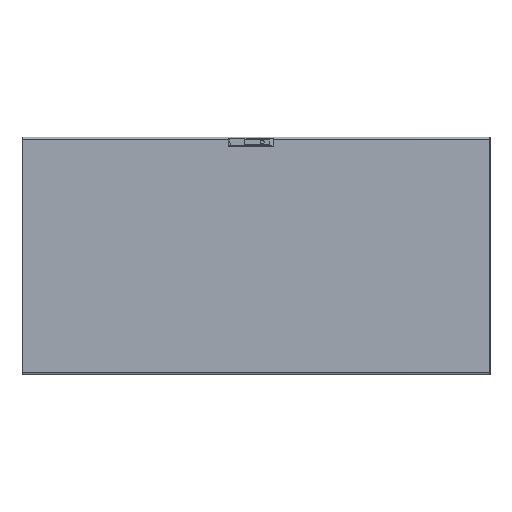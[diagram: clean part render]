
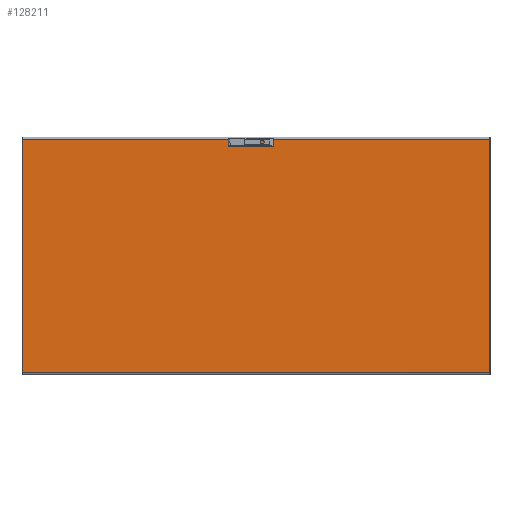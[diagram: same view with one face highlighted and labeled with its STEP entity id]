
A CAD part, top view. The second image highlights one B-rep face of the part: STEP entity #128211.
In plain terms, the highlighted planar face has unit normal (0, 0, 1).
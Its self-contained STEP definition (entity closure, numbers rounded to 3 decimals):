
#123416=CARTESIAN_POINT(' ',(975.49,-487.5,2.));
#123417=VERTEX_POINT(' ',#123416);
#123936=CARTESIAN_POINT(' ',(-975.49,-487.5,2.));
#123937=VERTEX_POINT(' ',#123936);
#124931=CARTESIAN_POINT(' ',(-975.49,-487.5,2.));
#124936=DIRECTION(' ',(1.,0.,0.));
#124941=VECTOR(' ',#124936,1.);
#124946=LINE('',#124931,#124941);
#124951=EDGE_CURVE(' ',#123937,#123417,#124946,.T.);
#125781=CARTESIAN_POINT(' ',(-975.49,487.5,2.));
#125782=VERTEX_POINT(' ',#125781);
#126301=CARTESIAN_POINT(' ',(975.49,487.5,2.));
#126302=VERTEX_POINT(' ',#126301);
#127956=CARTESIAN_POINT(' ',(975.49,-487.5,2.));
#127961=DIRECTION(' ',(0.,1.,0.));
#127966=VECTOR(' ',#127961,1.);
#127971=LINE('',#127956,#127966);
#127976=EDGE_CURVE(' ',#123417,#126302,#127971,.T.);
#128036=DIRECTION(' ',(0.,0.,1.));
#128041=CARTESIAN_POINT(' ',(-975.49,-487.5,2.));
#128046=DIRECTION(' ',(1.,0.,0.));
#128051=AXIS2_PLACEMENT_3D(' ',#128041,#128036,#128046);
#128056=PLANE('NONE',#128051);
#128061=CARTESIAN_POINT(' ',(-29.5,487.5,2.));
#128066=DIRECTION(' ',(-1.,0.,0.));
#128071=VECTOR(' ',#128066,1.);
#128076=LINE('',#128061,#128071);
#128081=CARTESIAN_POINT(' ',(-29.5,487.5,2.));
#128082=VERTEX_POINT(' ',#128081);
#128086=EDGE_CURVE(' ',#128082,#125782,#128076,.T.);
#128091=ORIENTED_EDGE(' ',*,*,#128086,.T.);
#128096=CARTESIAN_POINT(' ',(-975.49,487.5,2.));
#128101=DIRECTION(' ',(0.,-1.,0.));
#128106=VECTOR(' ',#128101,1.);
#128111=LINE('',#128096,#128106);
#128116=EDGE_CURVE(' ',#125782,#123937,#128111,.T.);
#128121=ORIENTED_EDGE(' ',*,*,#128116,.T.);
#128126=ORIENTED_EDGE(' ',*,*,#124951,.T.);
#128131=ORIENTED_EDGE(' ',*,*,#127976,.T.);
#128136=CARTESIAN_POINT(' ',(975.49,487.5,2.));
#128141=DIRECTION(' ',(-1.,0.,0.));
#128146=VECTOR(' ',#128141,1.);
#128151=LINE('',#128136,#128146);
#128156=CARTESIAN_POINT(' ',(29.5,487.5,2.));
#128157=VERTEX_POINT(' ',#128156);
#128161=EDGE_CURVE(' ',#126302,#128157,#128151,.T.);
#128166=ORIENTED_EDGE(' ',*,*,#128161,.T.);
#128171=CARTESIAN_POINT(' ',(29.5,487.5,2.));
#128176=DIRECTION(' ',(-1.,0.,0.));
#128181=VECTOR(' ',#128176,1.);
#128186=LINE('',#128171,#128181);
#128191=EDGE_CURVE(' ',#128157,#128082,#128186,.T.);
#128196=ORIENTED_EDGE(' ',*,*,#128191,.T.);
#128201=EDGE_LOOP(' ',(#128091,#128121,#128126,#128131,#128166,#128196));
#128206=FACE_OUTER_BOUND(' ',#128201,.T.);
#128211=ADVANCED_FACE('NONE',(#128206),#128056,.T.);
